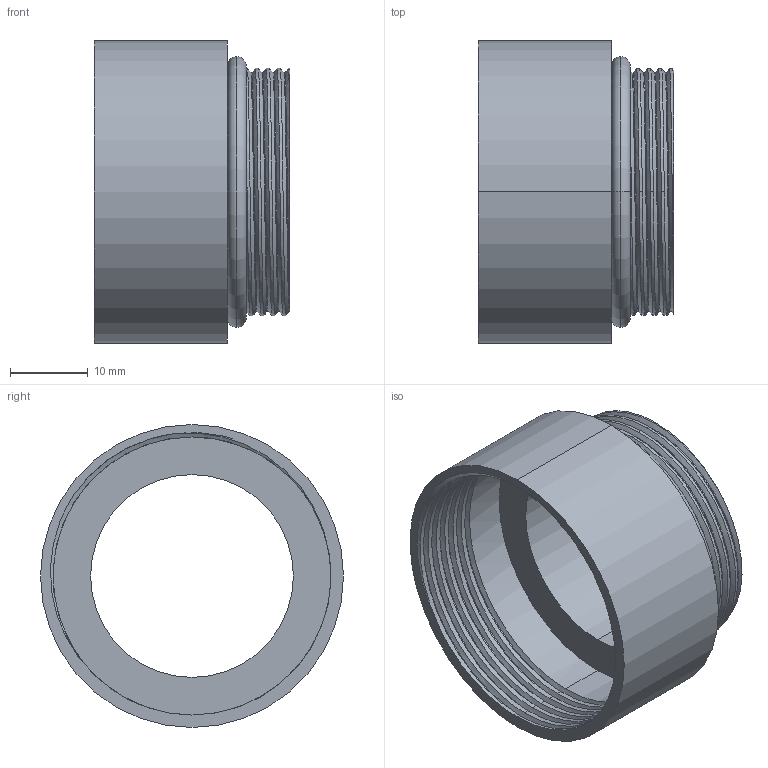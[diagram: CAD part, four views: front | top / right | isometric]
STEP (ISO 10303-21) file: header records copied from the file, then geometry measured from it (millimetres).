
FILE_DESCRIPTION (( 'STEP AP214' ), '1' );
FILE_NAME ('M32-PG29.STEP', '2006-08-15T14:05:13', ( 'Mencom User' ), ( 'Mencom Corporation' ), 'SwSTEP 2.0', 'SolidWorks 2006104', '' );
FILE_SCHEMA (( 'AUTOMOTIVE_DESIGN' ));
Length unit declared in the file: inch
Products named in the file (1): M32-PG29
Bounding box: 25.15 x 38.91 x 38.91 mm (x, y, z)
Volume: 6455.7 mm3; surface area: 8269 mm2
Topology: 2 solids, 2 shells, 50 faces, 128 edges, 84 vertices
Faces by surface type: cylinder 30, plane 8, torus 6, bspline 6
Entity records: 4572 total; most frequent: CARTESIAN_POINT 3410, ORIENTED_EDGE 256, DIRECTION 196, EDGE_CURVE 128, VERTEX_POINT 84, AXIS2_PLACEMENT_3D 80, EDGE_LOOP 56, ADVANCED_FACE 50
